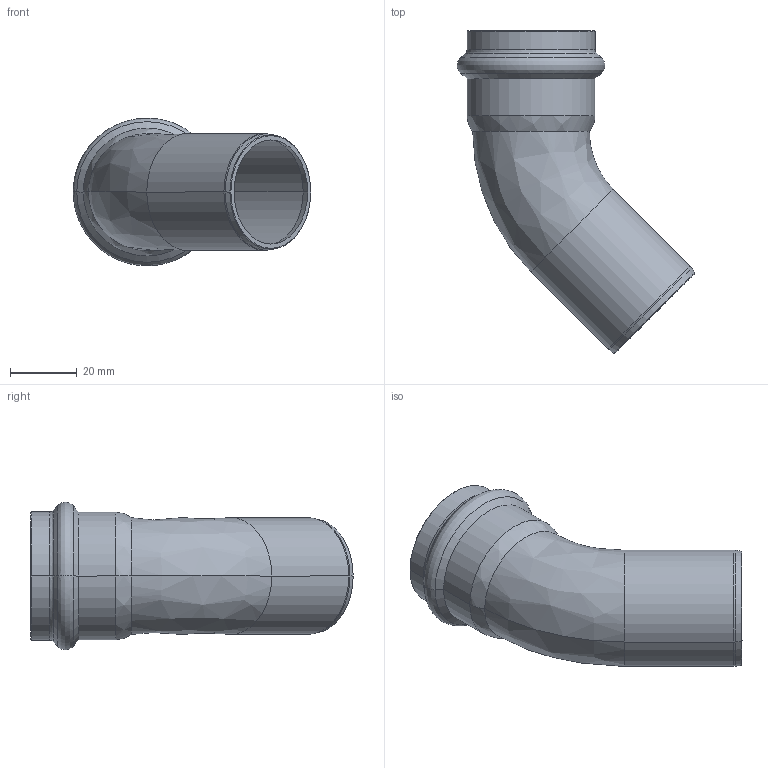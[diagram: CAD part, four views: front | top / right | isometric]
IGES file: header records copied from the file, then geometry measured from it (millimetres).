
Start section: Elysium IGES Interface
Global section: file name: C:\3d modellen sudo\C-Pr VP\SP8040V\8040VW35.igs; native system: CoCreate Modeling 17.00A  17-Jun-2010; preprocessor: CoCreate IGES_3D V2.2; author: Unknown; organization: Unknown; date: 20130129.144317; units: millimetre
Bounding box: 71.27 x 96.7 x 44.27 mm (x, y, z)
Volume: 18305 mm3; surface area: 22370.3 mm2
Topology: 1 solids, 1 shells, 52 faces, 108 edges, 58 vertices
Faces by surface type: bspline 52
